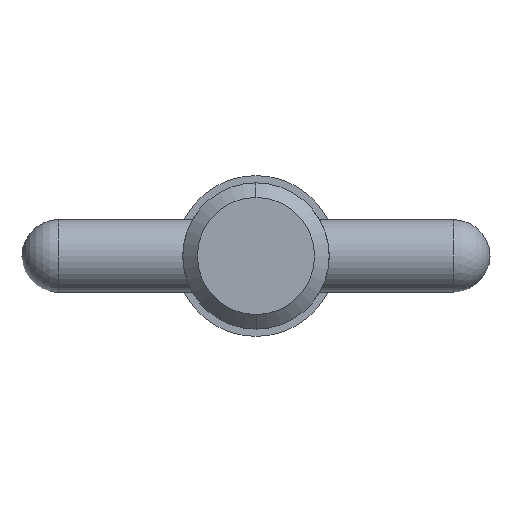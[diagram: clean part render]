
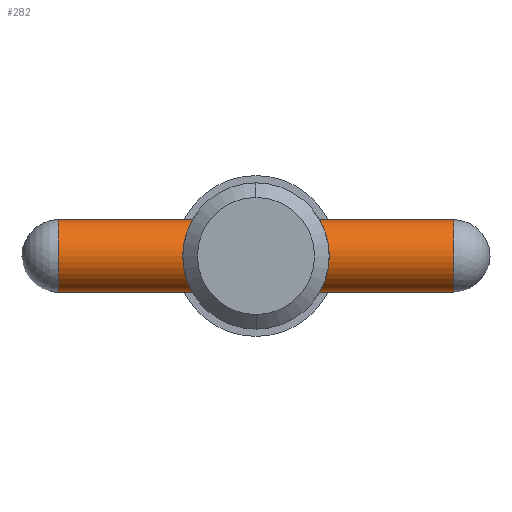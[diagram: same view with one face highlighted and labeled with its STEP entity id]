
A CAD part, left-side view. The second image highlights one B-rep face of the part: STEP entity #282.
In plain terms, the highlighted cylindrical face has radius 1.98 mm (diameter 3.96 mm), a partial arc.
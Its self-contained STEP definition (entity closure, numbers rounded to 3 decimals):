
#17 = DIRECTION ( 'NONE',  ( 0., 0., -1. ) ) ;
#27 = CARTESIAN_POINT ( 'NONE',  ( 0., 12.7, 1.98 ) ) ;
#67 = DIRECTION ( 'NONE',  ( 0., 0., -1. ) ) ;
#80 = CIRCLE ( 'NONE', #800, 1.98 ) ;
#94 = VERTEX_POINT ( 'NONE', #114 ) ;
#97 = LINE ( 'NONE', #732, #206 ) ;
#100 = AXIS2_PLACEMENT_3D ( 'NONE', #697, #151, #67 ) ;
#114 = CARTESIAN_POINT ( 'NONE',  ( 0., -10.72, -1.98 ) ) ;
#146 = VERTEX_POINT ( 'NONE', #847 ) ;
#151 = DIRECTION ( 'NONE',  ( 0., -1., 0. ) ) ;
#160 = EDGE_CURVE ( 'NONE', #146, #848, #686, .T. ) ;
#206 = VECTOR ( 'NONE', #751, 1000. ) ;
#214 = CYLINDRICAL_SURFACE ( 'NONE', #100, 1.98 ) ;
#218 = ORIENTED_EDGE ( 'NONE', *, *, #160, .F. ) ;
#282 = ADVANCED_FACE ( 'NONE', ( #613 ), #214, .T. ) ;
#301 = VECTOR ( 'NONE', #455, 1000. ) ;
#311 = DIRECTION ( 'NONE',  ( 0., 0., -1. ) ) ;
#314 = AXIS2_PLACEMENT_3D ( 'NONE', #398, #394, #311 ) ;
#338 = EDGE_CURVE ( 'NONE', #146, #710, #401, .T. ) ;
#339 = ORIENTED_EDGE ( 'NONE', *, *, #368, .T. ) ;
#368 = EDGE_CURVE ( 'NONE', #710, #94, #97, .T. ) ;
#394 = DIRECTION ( 'NONE',  ( 0., -1., 0. ) ) ;
#398 = CARTESIAN_POINT ( 'NONE',  ( 0., 10.72, 0. ) ) ;
#401 = CIRCLE ( 'NONE', #314, 1.98 ) ;
#455 = DIRECTION ( 'NONE',  ( 0., -1., 0. ) ) ;
#556 = CARTESIAN_POINT ( 'NONE',  ( 0., -10.72, 1.98 ) ) ;
#559 = CARTESIAN_POINT ( 'NONE',  ( 0., 10.72, -1.98 ) ) ;
#613 = FACE_OUTER_BOUND ( 'NONE', #1006, .T. ) ;
#682 = ORIENTED_EDGE ( 'NONE', *, *, #782, .T. ) ;
#686 = LINE ( 'NONE', #27, #301 ) ;
#697 = CARTESIAN_POINT ( 'NONE',  ( 0., 12.7, 0. ) ) ;
#710 = VERTEX_POINT ( 'NONE', #559 ) ;
#732 = CARTESIAN_POINT ( 'NONE',  ( 0., 12.7, -1.98 ) ) ;
#751 = DIRECTION ( 'NONE',  ( 0., -1., 0. ) ) ;
#782 = EDGE_CURVE ( 'NONE', #94, #848, #80, .T. ) ;
#800 = AXIS2_PLACEMENT_3D ( 'NONE', #958, #966, #17 ) ;
#847 = CARTESIAN_POINT ( 'NONE',  ( 0., 10.72, 1.98 ) ) ;
#848 = VERTEX_POINT ( 'NONE', #556 ) ;
#958 = CARTESIAN_POINT ( 'NONE',  ( 0., -10.72, 0. ) ) ;
#964 = ORIENTED_EDGE ( 'NONE', *, *, #338, .T. ) ;
#966 = DIRECTION ( 'NONE',  ( 0., 1., 0. ) ) ;
#1006 = EDGE_LOOP ( 'NONE', ( #218, #964, #339, #682 ) ) ;
